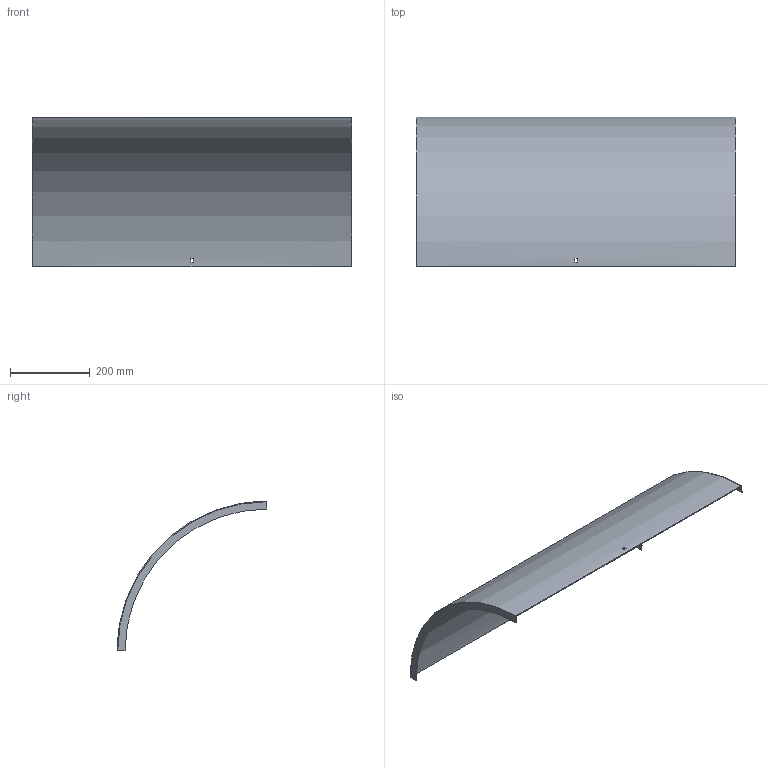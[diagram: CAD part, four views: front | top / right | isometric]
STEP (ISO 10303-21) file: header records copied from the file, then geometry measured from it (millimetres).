
FILE_DESCRIPTION (( 'STEP AP214' ), '1' );
FILE_NAME ('B2_33N3C800.step', '2025-02-21T10:46:47', ( '' ), ( '' ), 'SwSTEP 2.0', 'SolidWorks 2023', '' );
FILE_SCHEMA (( 'AUTOMOTIVE_DESIGN' ));
Length unit declared in the file: millimetre
Products named in the file (1): B2_33N3C800
Bounding box: 803 x 376.5 x 376.5 mm (x, y, z)
Volume: 742638.2 mm3; surface area: 994480.9 mm2
Topology: 1 solids, 1 shells, 18 faces, 48 edges, 32 vertices
Faces by surface type: plane 14, cylinder 4
Entity records: 599 total; most frequent: DIRECTION 102, CARTESIAN_POINT 99, ORIENTED_EDGE 96, EDGE_CURVE 48, AXIS2_PLACEMENT_3D 35, LINE 32, VERTEX_POINT 32, VECTOR 32
